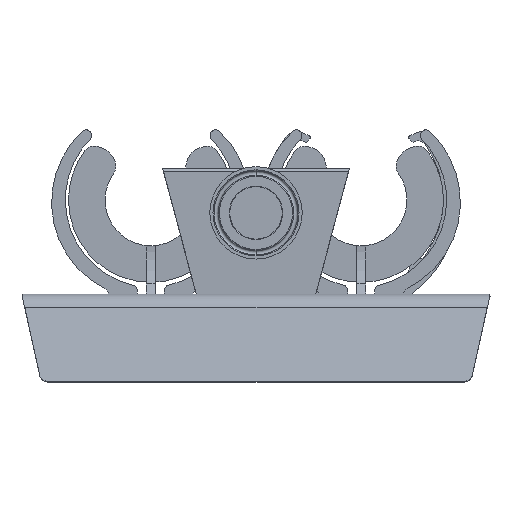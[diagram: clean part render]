
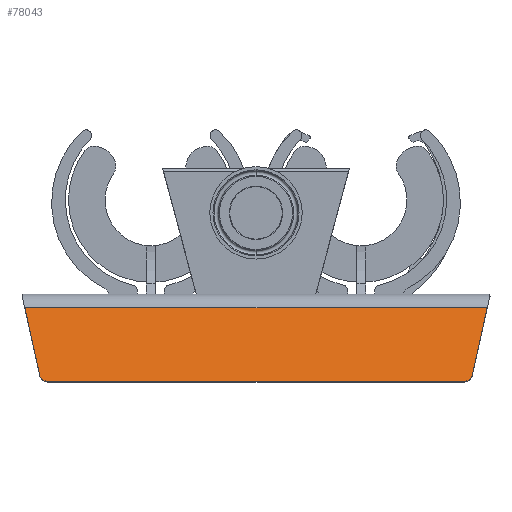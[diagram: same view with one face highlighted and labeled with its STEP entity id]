
A CAD part, front view. The second image highlights one B-rep face of the part: STEP entity #78043.
In plain terms, the highlighted planar face has unit normal (0, -0.966, 0.259).
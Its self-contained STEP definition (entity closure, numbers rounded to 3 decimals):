
#990 = CARTESIAN_POINT ( 'NONE',  ( -118.361, -152.955, -38.349 ) ) ;
#4245 = CARTESIAN_POINT ( 'NONE',  ( 113.47, -153.98, -42.174 ) ) ;
#5823 = DIRECTION ( 'NONE',  ( 0., 0.966, -0.259 ) ) ;
#5900 = EDGE_LOOP ( 'NONE', ( #56862, #50575, #55275, #99426, #71074, #38482 ) ) ;
#6152 = EDGE_CURVE ( 'NONE', #13923, #20327, #16694, .T. ) ;
#6369 = AXIS2_PLACEMENT_3D ( 'NONE', #53964, #52324, #52881 ) ;
#9633 = VECTOR ( 'NONE', #91945, 1000. ) ;
#12402 = CARTESIAN_POINT ( 'NONE',  ( 118.361, -152.955, -38.349 ) ) ;
#13923 = VERTEX_POINT ( 'NONE', #65475 ) ;
#16694 = LINE ( 'NONE', #86011, #21283 ) ;
#16717 = CARTESIAN_POINT ( 'NONE',  ( -113.47, -153.98, -42.174 ) ) ;
#17019 = AXIS2_PLACEMENT_3D ( 'NONE', #67231, #5823, #101059 ) ;
#17156 = VERTEX_POINT ( 'NONE', #16717 ) ;
#20327 = VERTEX_POINT ( 'NONE', #12402 ) ;
#21283 = VECTOR ( 'NONE', #52726, 1000. ) ;
#22845 = CARTESIAN_POINT ( 'NONE',  ( -118.361, -152.955, -38.349 ) ) ;
#30033 = EDGE_CURVE ( 'NONE', #60402, #55112, #64554, .T. ) ;
#35402 = PLANE ( 'NONE',  #53249 ) ;
#38482 = ORIENTED_EDGE ( 'NONE', *, *, #30033, .F. ) ;
#38685 = CIRCLE ( 'NONE', #6369, 5. ) ;
#50575 = ORIENTED_EDGE ( 'NONE', *, *, #105900, .F. ) ;
#52324 = DIRECTION ( 'NONE',  ( 0., 0.966, -0.259 ) ) ;
#52726 = DIRECTION ( 'NONE',  ( -0.208, -0.253, -0.945 ) ) ;
#52881 = DIRECTION ( 'NONE',  ( 0., -0.259, -0.966 ) ) ;
#53249 = AXIS2_PLACEMENT_3D ( 'NONE', #86711, #69772, #104178 ) ;
#53964 = CARTESIAN_POINT ( 'NONE',  ( 113.47, -152.686, -37.344 ) ) ;
#55112 = VERTEX_POINT ( 'NONE', #101257 ) ;
#55275 = ORIENTED_EDGE ( 'NONE', *, *, #73569, .F. ) ;
#56171 = VERTEX_POINT ( 'NONE', #4245 ) ;
#56862 = ORIENTED_EDGE ( 'NONE', *, *, #98671, .F. ) ;
#57781 = DIRECTION ( 'NONE',  ( -0.208, 0.253, 0.945 ) ) ;
#60368 = CARTESIAN_POINT ( 'NONE',  ( -113.47, -143.192, -1.912 ) ) ;
#60402 = VERTEX_POINT ( 'NONE', #990 ) ;
#64554 = LINE ( 'NONE', #22845, #97528 ) ;
#65475 = CARTESIAN_POINT ( 'NONE',  ( 126.386, -143.192, -1.912 ) ) ;
#67231 = CARTESIAN_POINT ( 'NONE',  ( -113.47, -152.686, -37.344 ) ) ;
#67367 = CIRCLE ( 'NONE', #17019, 5. ) ;
#69772 = DIRECTION ( 'NONE',  ( 0., 0.966, -0.259 ) ) ;
#71074 = ORIENTED_EDGE ( 'NONE', *, *, #107068, .F. ) ;
#73569 = EDGE_CURVE ( 'NONE', #20327, #56171, #38685, .T. ) ;
#74484 = LINE ( 'NONE', #99292, #9633 ) ;
#77860 = DIRECTION ( 'NONE',  ( 1., 0., 0. ) ) ;
#78043 = ADVANCED_FACE ( 'NONE', ( #88348 ), #35402, .F. ) ;
#86011 = CARTESIAN_POINT ( 'NONE',  ( 126.386, -143.192, -1.912 ) ) ;
#86711 = CARTESIAN_POINT ( 'NONE',  ( -113.47, -152.686, -37.344 ) ) ;
#88348 = FACE_OUTER_BOUND ( 'NONE', #5900, .T. ) ;
#88854 = VECTOR ( 'NONE', #77860, 1000. ) ;
#91945 = DIRECTION ( 'NONE',  ( -1., 0., 0. ) ) ;
#97528 = VECTOR ( 'NONE', #57781, 1000. ) ;
#98671 = EDGE_CURVE ( 'NONE', #17156, #60402, #67367, .T. ) ;
#99292 = CARTESIAN_POINT ( 'NONE',  ( -113.47, -153.98, -42.174 ) ) ;
#99426 = ORIENTED_EDGE ( 'NONE', *, *, #6152, .F. ) ;
#101059 = DIRECTION ( 'NONE',  ( 0., -0.259, -0.966 ) ) ;
#101257 = CARTESIAN_POINT ( 'NONE',  ( -126.386, -143.192, -1.912 ) ) ;
#104178 = DIRECTION ( 'NONE',  ( 0., 0.259, 0.966 ) ) ;
#105900 = EDGE_CURVE ( 'NONE', #56171, #17156, #74484, .T. ) ;
#107068 = EDGE_CURVE ( 'NONE', #55112, #13923, #111113, .T. ) ;
#111113 = LINE ( 'NONE', #60368, #88854 ) ;
